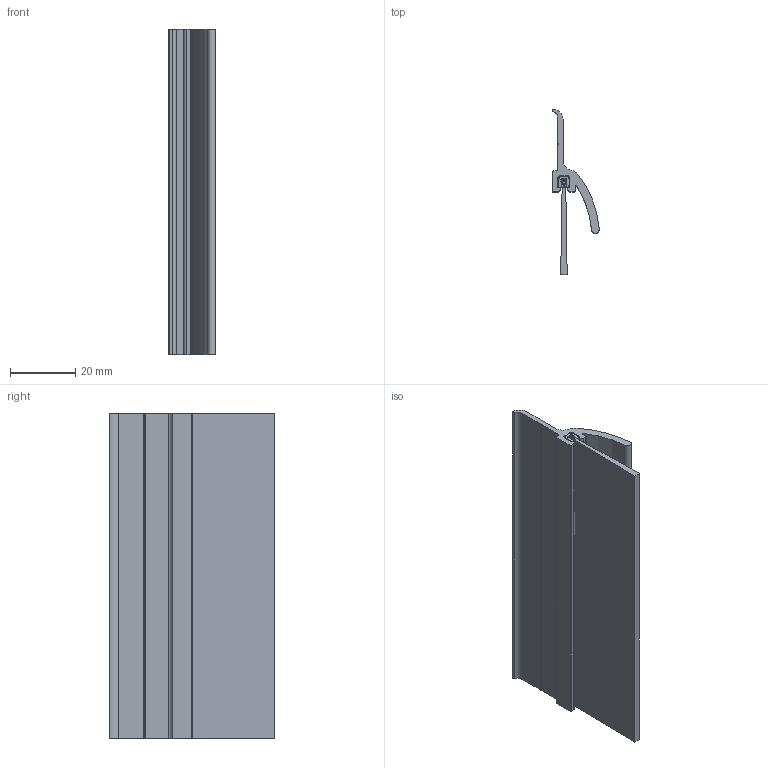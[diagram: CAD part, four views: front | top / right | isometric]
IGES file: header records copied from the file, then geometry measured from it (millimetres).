
Global section: file name: No Iges File Name specified; native system: Autodesk Inventor 2012; preprocessor: AutoDesk Inventor Iges Exporter R2012; author: anna.b; date: 20130830.132443; units: millimetre
Bounding box: 14.29 x 50.75 x 100 mm (x, y, z)
Volume: 15325.6 mm3; surface area: 19877.8 mm2
Topology: 5 solids, 5 shells, 75 faces, 195 edges, 130 vertices
Faces by surface type: plane 47, cylinder 16, revolution 12
Full cylindrical faces by diameter (mm): 0.889 x1
